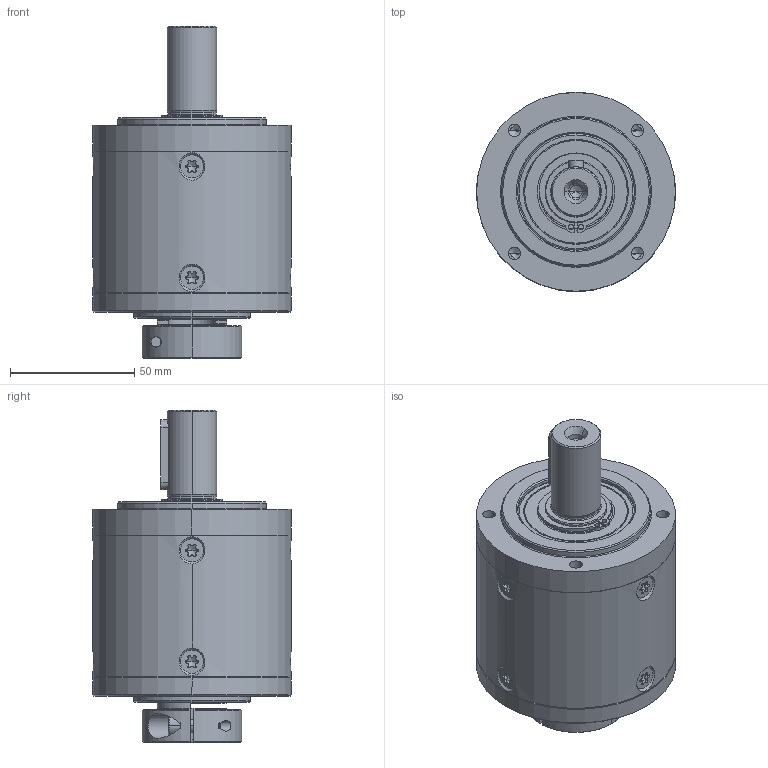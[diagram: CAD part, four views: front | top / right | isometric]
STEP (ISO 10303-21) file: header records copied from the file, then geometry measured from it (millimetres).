
FILE_DESCRIPTION (( 'STEP AP214' ), '1' );
FILE_NAME ('RPS080 1-ST.STEP', '2023-08-02T10:34:11', ( '' ), ( '' ), 'SwSTEP 2.0', 'SolidWorks 2021', '' );
FILE_SCHEMA (( 'AUTOMOTIVE_DESIGN' ));
Length unit declared in the file: millimetre
Products named in the file (1): RPS080 1-ST
Bounding box: 80 x 80 x 133.6 mm (x, y, z)
Volume: 406444.9 mm3; surface area: 41400.7 mm2
Topology: 1 solids, 1 shells, 459 faces, 1227 edges, 771 vertices
Faces by surface type: cylinder 278, cone 103, plane 61, torus 17
Entity records: 21156 total; most frequent: CARTESIAN_POINT 4947, DIRECTION 2380, ORIENTED_EDGE 2370, EDGE_CURVE 1185, AXIS2_PLACEMENT_3D 976, VERTEX_POINT 771, CIRCLE 516, EDGE_LOOP 508
